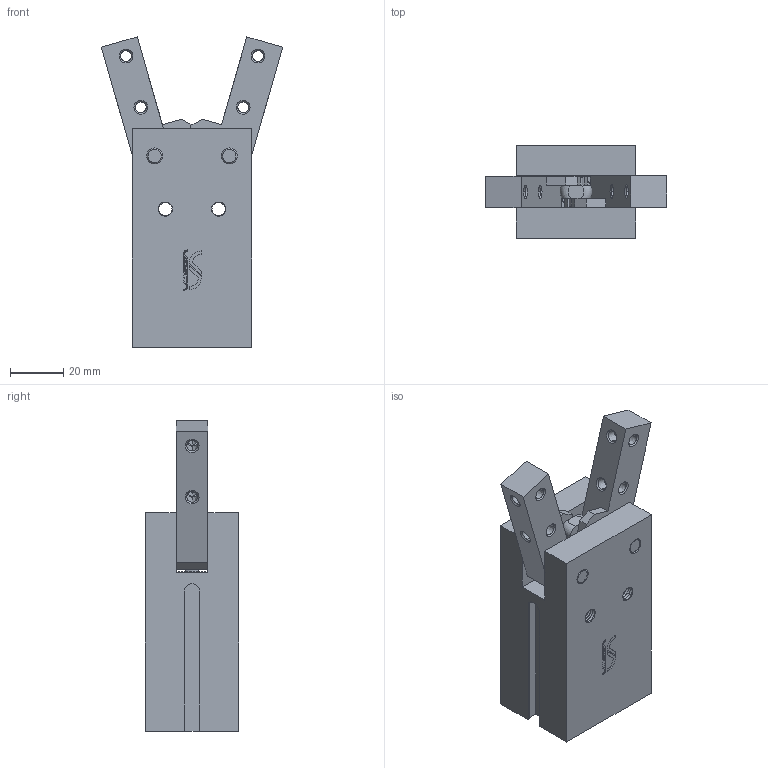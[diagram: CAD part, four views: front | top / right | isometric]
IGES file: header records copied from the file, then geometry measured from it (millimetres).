
Start section: SolidWorks IGES file using analytic representation for surfaces
Global section: file name: C:\Users\utente22\Desktop\3 D\MANI DI PRESA\MHM - ANGULAR GRIPPERS. MAGNETIC\Ø32\IGES\3D MHM Ø 32.IGS; native system: SolidWorks 2014; preprocessor: SolidWorks 2014; author: utente22; date: 150511.084026; units: millimetre
Bounding box: 68.08 x 35 x 116.52 mm (x, y, z)
Volume: 122899 mm3; surface area: 43860.2 mm2
Topology: 4 solids, 4 shells, 632 faces, 3220 edges, 4074 vertices
Faces by surface type: revolution 460, plane 172
